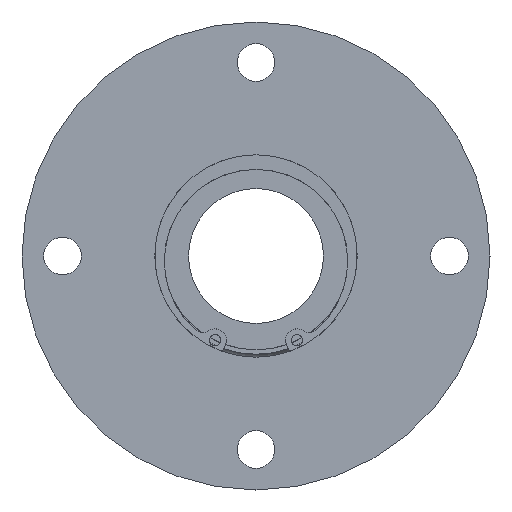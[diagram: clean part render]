
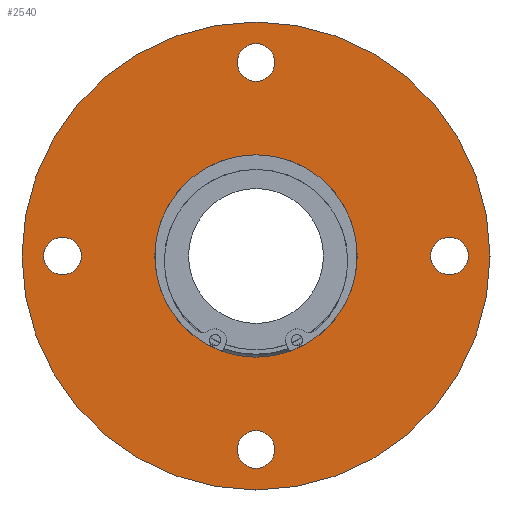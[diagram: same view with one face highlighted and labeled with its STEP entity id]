
A CAD part, left-side view. The second image highlights one B-rep face of the part: STEP entity #2540.
In plain terms, the highlighted planar face has unit normal (-1, 0, 0).
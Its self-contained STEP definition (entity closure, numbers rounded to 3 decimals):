
#1523=CARTESIAN_POINT('',(0.0,43.0,-4.188));
#1524=VERTEX_POINT('',#1523);
#1525=CARTESIAN_POINT('',(0.0,43.0,0.));
#1526=DIRECTION('',(1.0,0.0,0.0));
#1527=DIRECTION('',(0.0,0.0,-1.0));
#1528=AXIS2_PLACEMENT_3D('',#1525,#1526,#1527);
#1529=CIRCLE('',#1528,4.188);
#1530=EDGE_CURVE('',#1524,#1524,#1529,.T.);
#1551=CARTESIAN_POINT('',(0.0,-4.188,-43.0));
#1552=VERTEX_POINT('',#1551);
#1553=CARTESIAN_POINT('',(0.0,0.,-43.0));
#1554=DIRECTION('',(1.0,0.0,0.0));
#1555=DIRECTION('',(0.0,-1.0,0.0));
#1556=AXIS2_PLACEMENT_3D('',#1553,#1554,#1555);
#1557=CIRCLE('',#1556,4.188);
#1558=EDGE_CURVE('',#1552,#1552,#1557,.T.);
#1579=CARTESIAN_POINT('',(0.0,-43.0,4.188));
#1580=VERTEX_POINT('',#1579);
#1581=CARTESIAN_POINT('',(0.0,-43.0,0.));
#1582=DIRECTION('',(1.0,0.0,0.0));
#1583=DIRECTION('',(0.0,0.0,1.0));
#1584=AXIS2_PLACEMENT_3D('',#1581,#1582,#1583);
#1585=CIRCLE('',#1584,4.188);
#1586=EDGE_CURVE('',#1580,#1580,#1585,.T.);
#1607=CARTESIAN_POINT('',(0.0,4.188,43.0));
#1608=VERTEX_POINT('',#1607);
#1609=CARTESIAN_POINT('',(0.0,0.,43.0));
#1610=DIRECTION('',(1.0,0.0,0.0));
#1611=DIRECTION('',(0.0,1.0,0.0));
#1612=AXIS2_PLACEMENT_3D('',#1609,#1610,#1611);
#1613=CIRCLE('',#1612,4.188);
#1614=EDGE_CURVE('',#1608,#1608,#1613,.T.);
#2488=CARTESIAN_POINT('',(0.0,0.0,22.5));
#2489=VERTEX_POINT('',#2488);
#2490=CARTESIAN_POINT('',(0.0,0.0,0.0));
#2491=DIRECTION('',(-1.0,0.0,0.0));
#2492=DIRECTION('',(0.0,0.0,1.0));
#2493=AXIS2_PLACEMENT_3D('',#2490,#2491,#2492);
#2494=CIRCLE('',#2493,22.5);
#2495=EDGE_CURVE('',#2489,#2489,#2494,.T.);
#2509=CARTESIAN_POINT('',(0.0,0.0,37.25));
#2510=DIRECTION('',(-1.0,0.0,0.0));
#2511=DIRECTION('',(0.0,0.0,1.0));
#2512=AXIS2_PLACEMENT_3D('',#2509,#2510,#2511);
#2513=PLANE('',#2512);
#2514=CARTESIAN_POINT('',(0.0,0.0,52.0));
#2515=VERTEX_POINT('',#2514);
#2516=CARTESIAN_POINT('',(0.0,0.0,0.0));
#2517=DIRECTION('',(-1.0,0.0,0.0));
#2518=DIRECTION('',(0.0,0.0,1.0));
#2519=AXIS2_PLACEMENT_3D('',#2516,#2517,#2518);
#2520=CIRCLE('',#2519,52.0);
#2521=EDGE_CURVE('',#2515,#2515,#2520,.T.);
#2522=ORIENTED_EDGE('',*,*,#2521,.T.);
#2523=EDGE_LOOP('',(#2522));
#2524=FACE_OUTER_BOUND('',#2523,.T.);
#2525=ORIENTED_EDGE('',*,*,#1530,.T.);
#2526=EDGE_LOOP('',(#2525));
#2527=FACE_BOUND('',#2526,.T.);
#2528=ORIENTED_EDGE('',*,*,#1558,.T.);
#2529=EDGE_LOOP('',(#2528));
#2530=FACE_BOUND('',#2529,.T.);
#2531=ORIENTED_EDGE('',*,*,#1586,.T.);
#2532=EDGE_LOOP('',(#2531));
#2533=FACE_BOUND('',#2532,.T.);
#2534=ORIENTED_EDGE('',*,*,#1614,.T.);
#2535=EDGE_LOOP('',(#2534));
#2536=FACE_BOUND('',#2535,.T.);
#2537=ORIENTED_EDGE('',*,*,#2495,.F.);
#2538=EDGE_LOOP('',(#2537));
#2539=FACE_BOUND('',#2538,.T.);
#2540=ADVANCED_FACE('',(#2524,#2527,#2530,#2533,#2536,#2539),#2513,.T.);
